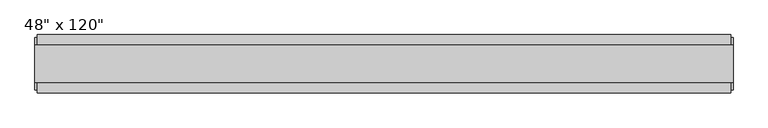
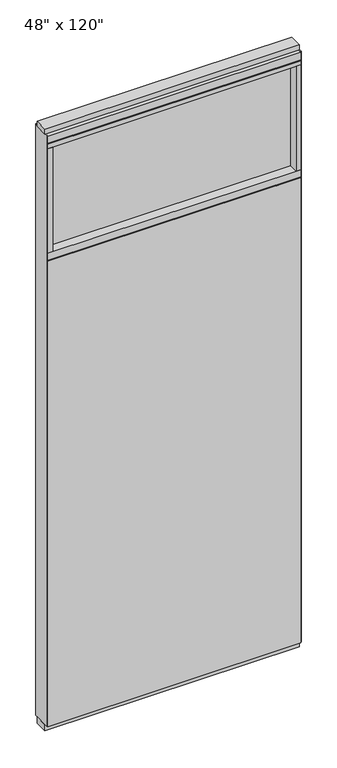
"""IFC4 building model written with IfcOpenShell, lengths in millimetres: furniture geometry."""

from ifc_helpers import new_model, si_unit, frame, origin, origin_with_axes, place, context, project, spatial, polyline, outline, extrude, source, transform, mapped, element, save


def furniture_3c25fe57(model_context):
    return source(origin(), model_context, "Body", "SweptSolid", [
        extrude(outline(polyline([(545.6264771, 46.2822784), (545.6264771, 33.5822784), (-665.6995229, 33.5822784), (-665.6995229, 46.2822784), (545.6264771, 46.2822784)])), frame((0.0, 0.0, 31.75), z_axis=(0.0, 0.0, 1.0), x_axis=(1.0, 0.0, 0.0)), (0.0, 0.0, 1.0), 2355.85),
        extrude(outline(polyline([(545.6264771, -55.3177216), (-665.6995229, -55.3177216), (-665.6995229, -42.6177216), (545.6264771, -42.6177216), (545.6264771, -55.3177216)])), frame((0.0, 0.0, 31.75), z_axis=(0.0, 0.0, 1.0), x_axis=(1.0, 0.0, 0.0)), (0.0, 0.0, 1.0), 2355.85),
        extrude(outline(polyline([(523.4014771, -9.5977216), (-643.4745229, -9.5977216), (-643.4745229, 0.5622784), (523.4014771, 0.5622784), (523.4014771, -9.5977216)])), frame((0.0, 0.0, 2428.875), z_axis=(0.0, 0.0, 1.0), x_axis=(1.0, 0.0, 0.0)), (0.0, 0.0, 1.0), 530.225),
        extrude(outline(polyline([(523.4014771, -55.3177216), (523.4014771, 46.2822784), (545.6264771, 46.2822784), (545.6264771, -55.3177216), (523.4014771, -55.3177216)])), frame((0.0, 0.0, 2428.875), z_axis=(0.0, 0.0, 1.0), x_axis=(1.0, 0.0, 0.0)), (0.0, 0.0, 1.0), 530.225),
        extrude(outline(polyline([(-55.3177216, 2392.553), (-55.3177216, 2428.875), (46.2822784, 2428.875), (46.2822784, 2392.553), (41.3292784, 2392.553), (41.3292784, 2387.6), (-50.3647216, 2387.6), (-50.3647216, 2392.553), (-55.3177216, 2392.553)])), frame((-665.6995229, 0.0, 0.0), z_axis=(1.0, 0.0, 0.0), x_axis=(0.0, 1.0, 0.0)), (0.0, 0.0, 1.0), 1211.326),
        extrude(outline(polyline([(-643.4745229, -55.3177216), (-665.6995229, -55.3177216), (-665.6995229, 46.2822784), (-643.4745229, 46.2822784), (-643.4745229, -55.3177216)])), frame((0.0, 0.0, 2428.875), z_axis=(0.0, 0.0, 1.0), x_axis=(1.0, 0.0, 0.0)), (0.0, 0.0, 1.0), 530.225),
        extrude(outline(polyline([(549.5634771, 27.9942784), (549.5634771, -37.0297216), (-669.6365229, -37.0297216), (-669.6365229, 27.9942784), (549.5634771, 27.9942784)])), origin_with_axes(), (0.0, 0.0, 1.0), 31.75),
        extrude(outline(polyline([(-669.6365229, -37.0297216), (-669.6365229, 27.9942784), (549.5634771, 27.9942784), (549.5634771, -37.0297216), (-669.6365229, -37.0297216)])), frame((0.0, 0.0, 3022.6), z_axis=(0.0, 0.0, 1.0), x_axis=(1.0, 0.0, 0.0)), (0.0, 0.0, 1.0), 25.4),
        extrude(outline(polyline([(-55.3177216, 2986.278), (-55.3177216, 3022.6), (46.2822784, 3022.6), (46.2822784, 2986.278), (41.3292784, 2986.278), (41.3292784, 2981.325), (-50.3647216, 2981.325), (-50.3647216, 2986.278), (-55.3177216, 2986.278)])), frame((-665.6995229, 0.0, 0.0), z_axis=(1.0, 0.0, 0.0), x_axis=(0.0, 1.0, 0.0)), (0.0, 0.0, 1.0), 1211.326),
        extrude(outline(polyline([(545.6264771, 46.2822784), (545.6264771, -55.3177216), (-665.6995229, -55.3177216), (-665.6995229, 46.2822784), (545.6264771, 46.2822784)])), frame((0.0, 0.0, 2959.1), z_axis=(0.0, 0.0, 1.0), x_axis=(1.0, 0.0, 0.0)), (0.0, 0.0, 1.0), 22.225),
        extrude(outline(polyline([(549.5634771, -50.3647216), (545.6264771, -50.3647216), (545.6264771, 41.3292784), (549.5634771, 41.3292784), (549.5634771, -50.3647216)])), frame((0.0, 0.0, 31.75), z_axis=(0.0, 0.0, 1.0), x_axis=(1.0, 0.0, 0.0)), (0.0, 0.0, 1.0), 2990.85),
        extrude(outline(polyline([(-669.6365229, -50.3647216), (-669.6365229, 41.3292784), (-665.6995229, 41.3292784), (-665.6995229, -50.3647216), (-669.6365229, -50.3647216)])), frame((0.0, 0.0, 31.75), z_axis=(0.0, 0.0, 1.0), x_axis=(1.0, 0.0, 0.0)), (0.0, 0.0, 1.0), 2990.85),
    ])


if __name__ == "__main__":
    model = new_model("IFC4")
    model_context = context("Model", 3, world=origin())
    ifc_project = project(units=[si_unit("LENGTHUNIT", "METRE", prefix="MILLI")], contexts=[model_context])
    site = spatial("IfcSite", under=ifc_project)
    building = spatial("IfcBuilding", under=site)
    placement = place(None, origin())
    furniture_shape = furniture_3c25fe57(model_context)
    element("IfcFurniture", 1, ObjectType="Haworth_Enclose_Wall_SolidTransom : 48\" x 120\"", at=placement, inside=building, context=model_context, shape_type="MappedRepresentation", body=[
        mapped(furniture_shape, transform((0.0, 0.0, 0.0), x_axis=(1.0, 0.0, 0.0), y_axis=(0.0, 1.0, 0.0), z_axis=(0.0, 0.0, 1.0))),
    ])
    save(model, "model.ifc")
